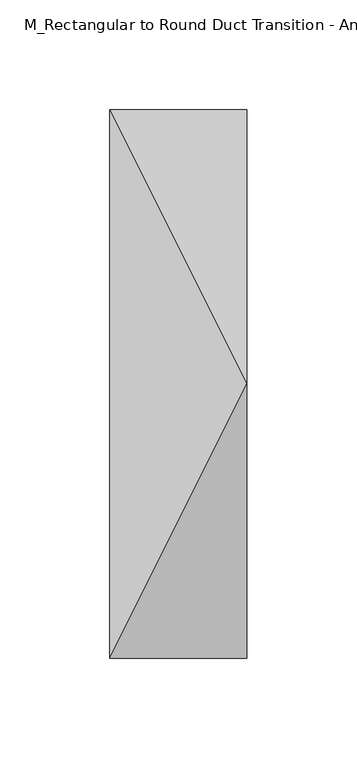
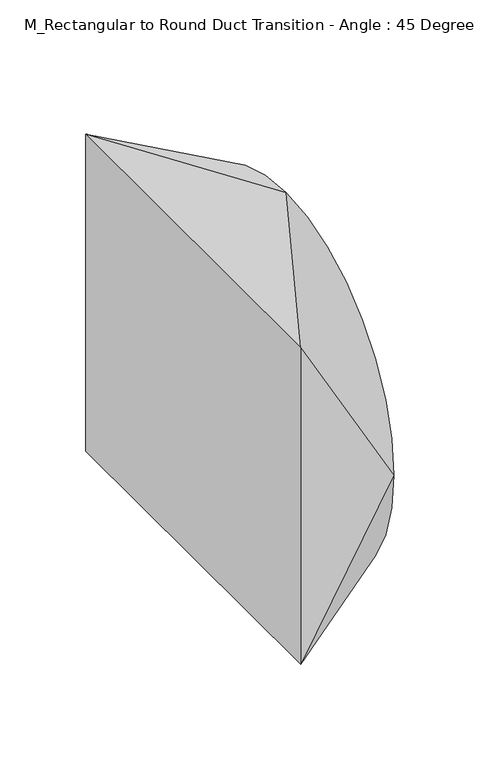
"""IFC4 building model written with IfcOpenShell, lengths in millimetres: duct fitting geometry, M_Rectangular to Round Duct Transition - Angle : 45 Degree."""

from ifc_helpers import new_model, si_unit, frame, origin, place, context, project, spatial, circle_curve, source, transform, mapped, element, save
from ifc_brep_helpers import plane_surface, spline_surface, advanced_brep


def m_rectangular_to_round_duct_transition_angle_45_degree_5a3a7efe(model_context):
    return source(origin(), model_context, "Body", "AdvancedBrep", [
        advanced_brep(
        [(0.0, -125.0, -112.5), (0.0, -125.0, 112.5), (0.0, 125.0, 112.5), (0.0, 125.0, -112.5), (62.5, -125.0, 0.0), (62.5, 0.0, -125.0), (62.5, 125.0, 0.0), (62.5, 0.0, 125.0)],
        [
            (0, 1),
            (1, 2),
            (2, 3),
            (3, 0),
            (4, 5, circle_curve(frame((62.5, 0.0, 0.0), z_axis=(1.0, 0.0, 0.0), x_axis=(0.0, -1.0, 0.0)), 125.0)),
            (5, 6, circle_curve(frame((62.5, 0.0, 0.0), z_axis=(1.0, 0.0, 0.0), x_axis=(0.0, -1.0, 0.0)), 125.0)),
            (6, 7, circle_curve(frame((62.5, 0.0, 0.0), z_axis=(1.0, 0.0, 0.0), x_axis=(0.0, -1.0, 0.0)), 125.0)),
            (7, 4, circle_curve(frame((62.5, 0.0, 0.0), z_axis=(1.0, 0.0, 0.0), x_axis=(0.0, -1.0, 0.0)), 125.0)),
            (0, 4),
            (4, 1),
            (7, 1),
            (7, 2),
            (6, 2),
            (6, 3),
            (5, 3),
            (5, 0),
        ],
        [
            plane_surface(frame((0.0, 0.0, 0.0), z_axis=(-1.0, 0.0, 0.0), x_axis=(0.0, 1.0, 0.0))),
            plane_surface(frame((62.5, 0.0, 0.0), z_axis=(1.0, 0.0, 0.0), x_axis=(0.0, 1.0, 0.0))),
            plane_surface(frame((62.5, -125.0, 0.0), z_axis=(0.0, -1.0, 0.0), x_axis=(0.0, 0.0, 1.0))),
            spline_surface(2, 1, [[(62.5, -125.0, 0.0), (0.0, -125.0, 112.5)], [(62.5, -125.0, 125.0), (0.0, -125.0, 112.5)], [(62.5, 0.0, 125.0), (0.0, -125.0, 112.5)]], [3, 3], [2, 2], [0.0, 1.0], [0.0, 1.0], weights=[[1.0, 1.0], [0.7071067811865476, 0.7071067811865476], [1.0, 1.0]]),
            plane_surface(frame((62.5, 0.0, 125.0), z_axis=(-0.1961161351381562, 0.0, 0.9805806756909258), x_axis=(0.0, 1.0, 0.0))),
            spline_surface(2, 1, [[(62.5, 0.0, 125.0), (0.0, 125.0, 112.5)], [(62.5, 125.0, 125.0), (0.0, 125.0, 112.5)], [(62.5, 125.0, 0.0), (0.0, 125.0, 112.5)]], [3, 3], [2, 2], [0.0, 1.0], [0.0, 1.0], weights=[[1.0, 1.0], [0.7071067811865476, 0.7071067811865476], [1.0, 1.0]]),
            plane_surface(frame((62.5, 125.0, 0.0), z_axis=(0.0, 1.0, 0.0), x_axis=(0.0, 0.0, -1.0))),
            spline_surface(2, 1, [[(62.5, 125.0, 0.0), (0.0, 125.0, -112.5)], [(62.5, 125.0, -125.0), (0.0, 125.0, -112.5)], [(62.5, 0.0, -125.0), (0.0, 125.0, -112.5)]], [3, 3], [2, 2], [0.0, 1.0], [0.0, 1.0], weights=[[1.0, 1.0], [0.7071067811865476, 0.7071067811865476], [1.0, 1.0]]),
            plane_surface(frame((62.5, 0.0, -125.0), z_axis=(-0.1961161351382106, 0.0, -0.9805806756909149), x_axis=(0.0, -1.0, 0.0))),
            spline_surface(2, 1, [[(62.5, 0.0, -125.0), (0.0, -125.0, -112.5)], [(62.5, -125.0, -125.0), (0.0, -125.0, -112.5)], [(62.5, -125.0, 0.0), (0.0, -125.0, -112.5)]], [3, 3], [2, 2], [0.0, 1.0], [0.0, 1.0], weights=[[1.0, 1.0], [0.7071067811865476, 0.7071067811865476], [1.0, 1.0]]),
        ],
        [
            (0, [[1, 2, 3, 4]]),
            (1, [[5, 6, 7, 8]]),
            (2, [[-1, 9, 10]]),
            (3, [[-8, 11, -10]]),
            (4, [[-2, -11, 12]]),
            (5, [[-7, 13, -12]]),
            (6, [[-3, -13, 14]]),
            (7, [[-6, 15, -14]]),
            (8, [[-4, -15, 16]]),
            (9, [[-5, -9, -16]]),
        ],
    ),
        advanced_brep(
        [(0.0, -125.0, -112.5), (0.0, -125.0, 112.5), (0.0, 125.0, 112.5), (0.0, 125.0, -112.5), (62.5, -125.0, 0.0), (62.5, 0.0, -125.0), (62.5, 125.0, 0.0), (62.5, 0.0, 125.0)],
        [
            (0, 1),
            (1, 2),
            (2, 3),
            (3, 0),
            (4, 5, circle_curve(frame((62.5, 0.0, 0.0), z_axis=(1.0, 0.0, 0.0), x_axis=(0.0, -1.0, 0.0)), 125.0)),
            (5, 6, circle_curve(frame((62.5, 0.0, 0.0), z_axis=(1.0, 0.0, 0.0), x_axis=(0.0, -1.0, 0.0)), 125.0)),
            (6, 7, circle_curve(frame((62.5, 0.0, 0.0), z_axis=(1.0, 0.0, 0.0), x_axis=(0.0, -1.0, 0.0)), 125.0)),
            (7, 4, circle_curve(frame((62.5, 0.0, 0.0), z_axis=(1.0, 0.0, 0.0), x_axis=(0.0, -1.0, 0.0)), 125.0)),
            (0, 4),
            (4, 1),
            (7, 1),
            (7, 2),
            (6, 2),
            (6, 3),
            (5, 3),
            (5, 0),
        ],
        [
            plane_surface(frame((0.0, 0.0, 0.0), z_axis=(-1.0, 0.0, 0.0), x_axis=(0.0, 1.0, 0.0))),
            plane_surface(frame((62.5, 0.0, 0.0), z_axis=(1.0, 0.0, 0.0), x_axis=(0.0, 1.0, 0.0))),
            plane_surface(frame((62.5, -125.0, 0.0), z_axis=(0.0, -1.0, 0.0), x_axis=(0.0, 0.0, 1.0))),
            spline_surface(2, 1, [[(62.5, -125.0, 0.0), (0.0, -125.0, 112.5)], [(62.5, -125.0, 125.0), (0.0, -125.0, 112.5)], [(62.5, 0.0, 125.0), (0.0, -125.0, 112.5)]], [3, 3], [2, 2], [0.0, 1.0], [0.0, 1.0], weights=[[1.0, 1.0], [0.7071067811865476, 0.7071067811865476], [1.0, 1.0]]),
            plane_surface(frame((62.5, 0.0, 125.0), z_axis=(-0.1961161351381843, 0.0, 0.9805806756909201), x_axis=(0.0, 1.0, 0.0))),
            spline_surface(2, 1, [[(62.5, 0.0, 125.0), (0.0, 125.0, 112.5)], [(62.5, 125.0, 125.0), (0.0, 125.0, 112.5)], [(62.5, 125.0, 0.0), (0.0, 125.0, 112.5)]], [3, 3], [2, 2], [0.0, 1.0], [0.0, 1.0], weights=[[1.0, 1.0], [0.7071067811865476, 0.7071067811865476], [1.0, 1.0]]),
            plane_surface(frame((62.5, 125.0, 0.0), z_axis=(0.0, 1.0, 0.0), x_axis=(0.0, 0.0, -1.0))),
            spline_surface(2, 1, [[(62.5, 125.0, 0.0), (0.0, 125.0, -112.5)], [(62.5, 125.0, -125.0), (0.0, 125.0, -112.5)], [(62.5, 0.0, -125.0), (0.0, 125.0, -112.5)]], [3, 3], [2, 2], [0.0, 1.0], [0.0, 1.0], weights=[[1.0, 1.0], [0.7071067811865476, 0.7071067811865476], [1.0, 1.0]]),
            plane_surface(frame((62.5, 0.0, -125.0), z_axis=(-0.19611613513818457, 0.0, -0.9805806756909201), x_axis=(0.0, -1.0, 0.0))),
            spline_surface(2, 1, [[(62.5, 0.0, -125.0), (0.0, -125.0, -112.5)], [(62.5, -125.0, -125.0), (0.0, -125.0, -112.5)], [(62.5, -125.0, 0.0), (0.0, -125.0, -112.5)]], [3, 3], [2, 2], [0.0, 1.0], [0.0, 1.0], weights=[[1.0, 1.0], [0.7071067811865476, 0.7071067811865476], [1.0, 1.0]]),
        ],
        [
            (0, [[1, 2, 3, 4]]),
            (1, [[5, 6, 7, 8]]),
            (2, [[-1, 9, 10]]),
            (3, [[-8, 11, -10]]),
            (4, [[-2, -11, 12]]),
            (5, [[-7, 13, -12]]),
            (6, [[-3, -13, 14]]),
            (7, [[-6, 15, -14]]),
            (8, [[-4, -15, 16]]),
            (9, [[-5, -9, -16]]),
        ],
    ),
        advanced_brep(
        [(62.5, 0.0, 125.0), (62.5, -125.0, 0.0), (62.5, 0.0, -125.0), (62.5, 125.0, 0.0), (0.0, -125.0, 112.5), (0.0, 125.0, 112.5), (0.0, 125.0, -112.5), (0.0, -125.0, -112.5)],
        [
            (0, 1, circle_curve(frame((62.5, 0.0, 0.0), z_axis=(1.0, 0.0, 0.0), x_axis=(0.0, 1.0, 0.0)), 125.0)),
            (1, 2, circle_curve(frame((62.5, 0.0, 0.0), z_axis=(1.0, 0.0, 0.0), x_axis=(0.0, 1.0, 0.0)), 125.0)),
            (2, 3, circle_curve(frame((62.5, 0.0, 0.0), z_axis=(1.0, 0.0, 0.0), x_axis=(0.0, 1.0, 0.0)), 125.0)),
            (3, 0, circle_curve(frame((62.5, 0.0, 0.0), z_axis=(1.0, 0.0, 0.0), x_axis=(0.0, 1.0, 0.0)), 125.0)),
            (4, 5),
            (5, 6),
            (6, 7),
            (7, 4),
            (0, 4),
            (4, 1),
            (7, 1),
            (7, 2),
            (6, 2),
            (6, 3),
            (5, 3),
            (5, 0),
        ],
        [
            plane_surface(frame((62.5, 0.0, 0.0), z_axis=(1.0, 0.0, 0.0), x_axis=(0.0, 0.0, -1.0))),
            plane_surface(frame((0.0, 0.0, 0.0), z_axis=(-1.0, 0.0, 0.0), x_axis=(0.0, 0.0, -1.0))),
            spline_surface(2, 1, [[(0.0, -125.0, 112.5), (62.5, 0.0, 125.0)], [(0.0, -125.0, 112.5), (62.5, -125.0, 125.0)], [(0.0, -125.0, 112.5), (62.5, -125.0, 0.0)]], [3, 3], [2, 2], [0.0, 1.0], [0.0, 1.0], weights=[[1.0, 1.0], [0.7071067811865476, 0.7071067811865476], [1.0, 1.0]]),
            plane_surface(frame((0.0, -125.0, 0.0), z_axis=(0.0, -1.0, 0.0), x_axis=(0.0, 0.0, -1.0))),
            spline_surface(2, 1, [[(0.0, -125.0, -112.5), (62.5, -125.0, 0.0)], [(0.0, -125.0, -112.5), (62.5, -125.0, -125.0)], [(0.0, -125.0, -112.5), (62.5, 0.0, -125.0)]], [3, 3], [2, 2], [0.0, 1.0], [0.0, 1.0], weights=[[1.0, 1.0], [0.7071067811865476, 0.7071067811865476], [1.0, 1.0]]),
            plane_surface(frame((0.0, 0.0, -112.5), z_axis=(-0.1961161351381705, 0.0, -0.9805806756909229), x_axis=(0.0, 1.0, 0.0))),
            spline_surface(2, 1, [[(0.0, 125.0, -112.5), (62.5, 0.0, -125.0)], [(0.0, 125.0, -112.5), (62.5, 125.0, -125.0)], [(0.0, 125.0, -112.5), (62.5, 125.0, 0.0)]], [3, 3], [2, 2], [0.0, 1.0], [0.0, 1.0], weights=[[1.0, 1.0], [0.7071067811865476, 0.7071067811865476], [1.0, 1.0]]),
            plane_surface(frame((0.0, 125.0, 0.0), z_axis=(0.0, 1.0, 0.0), x_axis=(0.0, 0.0, 1.0))),
            spline_surface(2, 1, [[(0.0, 125.0, 112.5), (62.5, 125.0, 0.0)], [(0.0, 125.0, 112.5), (62.5, 125.0, 125.0)], [(0.0, 125.0, 112.5), (62.5, 0.0, 125.0)]], [3, 3], [2, 2], [0.0, 1.0], [0.0, 1.0], weights=[[1.0, 1.0], [0.7071067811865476, 0.7071067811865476], [1.0, 1.0]]),
            plane_surface(frame((0.0, 0.0, 112.5), z_axis=(-0.19611613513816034, 0.0, 0.980580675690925), x_axis=(0.0, -1.0, 0.0))),
        ],
        [
            (0, [[1, 2, 3, 4]]),
            (1, [[5, 6, 7, 8]]),
            (2, [[-1, 9, 10]]),
            (3, [[-8, 11, -10]]),
            (4, [[-2, -11, 12]]),
            (5, [[-7, 13, -12]]),
            (6, [[-3, -13, 14]]),
            (7, [[-6, 15, -14]]),
            (8, [[-4, -15, 16]]),
            (9, [[-5, -9, -16]]),
        ],
    ),
    ])


if __name__ == "__main__":
    model = new_model("IFC4")
    model_context = context("Model", 3, world=origin())
    ifc_project = project(units=[si_unit("LENGTHUNIT", "METRE", prefix="MILLI")], contexts=[model_context])
    site = spatial("IfcSite", under=ifc_project)
    building = spatial("IfcBuilding", under=site)
    placement = place(None, origin())
    m_rectangular_to_round_duct_transition_angle_45_degree_shape = m_rectangular_to_round_duct_transition_angle_45_degree_5a3a7efe(model_context)
    element("IfcDuctFitting", 1, ObjectType="M_Rectangular to Round Duct Transition - Angle : 45 Degree", at=placement, inside=building, context=model_context, shape_type="MappedRepresentation", body=[
        mapped(m_rectangular_to_round_duct_transition_angle_45_degree_shape, transform((0.0, 0.0, 0.0), x_axis=(1.0, 0.0, 0.0), y_axis=(0.0, 1.0, 0.0), z_axis=(0.0, 0.0, 1.0))),
    ])
    save(model, "model.ifc")
